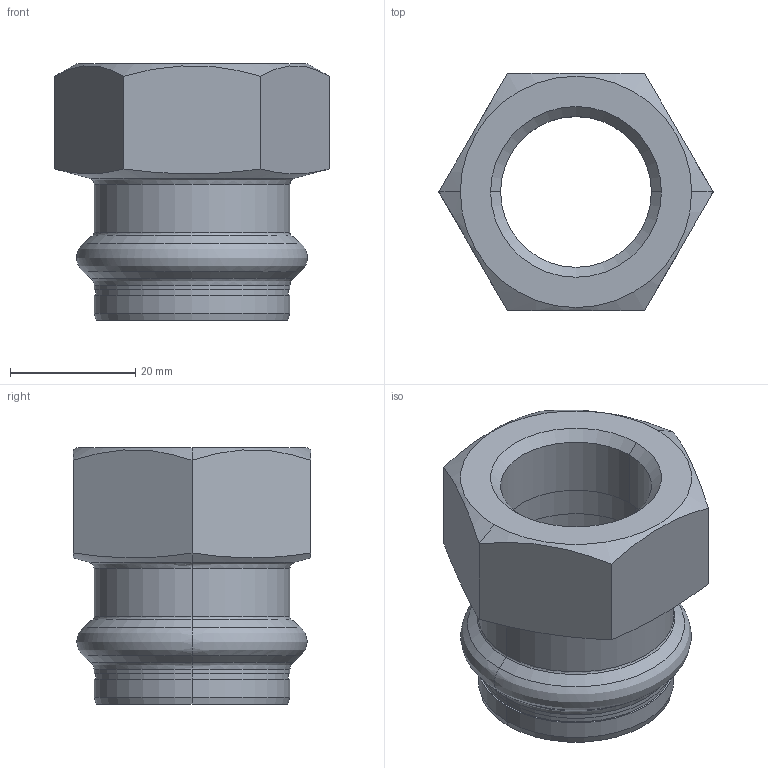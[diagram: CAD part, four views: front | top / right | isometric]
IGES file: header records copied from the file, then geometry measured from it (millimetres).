
Start section: Elysium IGES Interface
Global section: file name: C:\3d modellen sudo\C-Pr VP\SP8270GV\8270GVW2834.igs; native system: CoCreate Modeling 17.00A  17-Jun-2010; preprocessor: CoCreate IGES_3D V2.2; author: Unknown; organization: Unknown; date: 20130305.111236; units: millimetre
Bounding box: 43.88 x 38 x 41 mm (x, y, z)
Volume: 17984.2 mm3; surface area: 9887.4 mm2
Topology: 1 solids, 1 shells, 56 faces, 121 edges, 66 vertices
Faces by surface type: bspline 56
